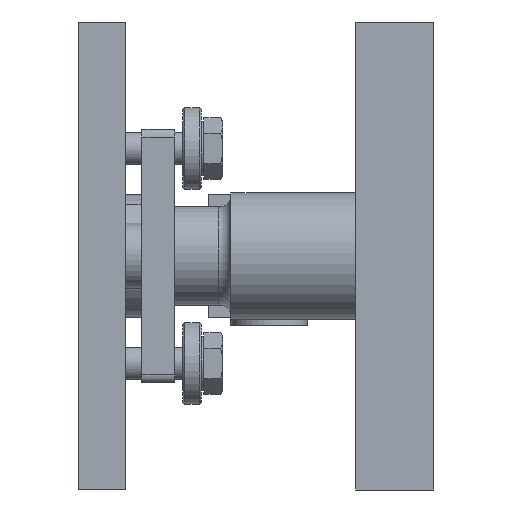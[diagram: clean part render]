
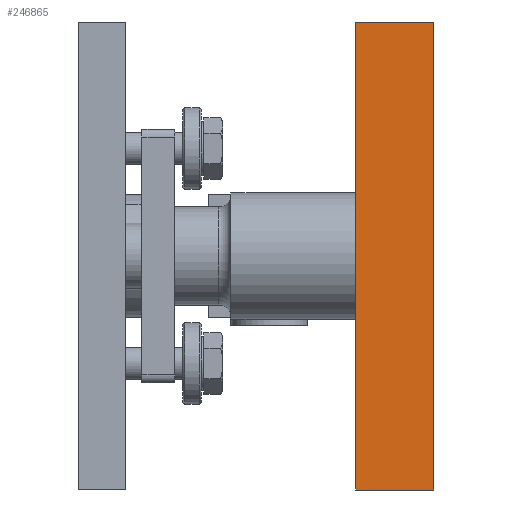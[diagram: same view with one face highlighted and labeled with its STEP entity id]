
A CAD part, left-side view. The second image highlights one B-rep face of the part: STEP entity #246865.
In plain terms, the highlighted planar face has unit normal (-1, 0, 0).
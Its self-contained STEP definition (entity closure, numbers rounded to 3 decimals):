
#14054 = CARTESIAN_POINT ( 'NONE',  ( -100., 0., -57.15 ) ) ;
#30852 = LINE ( 'NONE', #263910, #288001 ) ;
#34261 = CARTESIAN_POINT ( 'NONE',  ( -100., 0., -57.15 ) ) ;
#38756 = FACE_OUTER_BOUND ( 'NONE', #264236, .T. ) ;
#44741 = PLANE ( 'NONE',  #265133 ) ;
#51104 = CARTESIAN_POINT ( 'NONE',  ( -100., 19.05, 57.15 ) ) ;
#52907 = EDGE_CURVE ( 'NONE', #274651, #200084, #246543, .T. ) ;
#61244 = EDGE_CURVE ( 'NONE', #200084, #165385, #30852, .T. ) ;
#69628 = DIRECTION ( 'NONE',  ( 0., 0., 1. ) ) ;
#73703 = DIRECTION ( 'NONE',  ( 0., 0., -1. ) ) ;
#76756 = VECTOR ( 'NONE', #69628, 1000. ) ;
#77903 = EDGE_CURVE ( 'NONE', #274651, #236643, #175525, .T. ) ;
#102247 = VECTOR ( 'NONE', #124189, 1000. ) ;
#124189 = DIRECTION ( 'NONE',  ( 0., 0., 1. ) ) ;
#153483 = LINE ( 'NONE', #34261, #76756 ) ;
#158756 = CARTESIAN_POINT ( 'NONE',  ( -100., 19.05, -57.15 ) ) ;
#165385 = VERTEX_POINT ( 'NONE', #311432 ) ;
#175525 = LINE ( 'NONE', #158756, #328789 ) ;
#182937 = CARTESIAN_POINT ( 'NONE',  ( -100., 19.05, -57.15 ) ) ;
#200084 = VERTEX_POINT ( 'NONE', #51104 ) ;
#201065 = DIRECTION ( 'NONE',  ( 0., -1., 0. ) ) ;
#236643 = VERTEX_POINT ( 'NONE', #14054 ) ;
#238028 = ORIENTED_EDGE ( 'NONE', *, *, #61244, .F. ) ;
#246384 = DIRECTION ( 'NONE',  ( 1., 0., 0. ) ) ;
#246543 = LINE ( 'NONE', #325738, #102247 ) ;
#246865 = ADVANCED_FACE ( 'NONE', ( #38756 ), #44741, .F. ) ;
#251592 = ORIENTED_EDGE ( 'NONE', *, *, #257010, .T. ) ;
#257010 = EDGE_CURVE ( 'NONE', #236643, #165385, #153483, .T. ) ;
#263910 = CARTESIAN_POINT ( 'NONE',  ( -100., 19.05, 57.15 ) ) ;
#264236 = EDGE_LOOP ( 'NONE', ( #251592, #238028, #338822, #275495 ) ) ;
#265133 = AXIS2_PLACEMENT_3D ( 'NONE', #303092, #246384, #73703 ) ;
#274651 = VERTEX_POINT ( 'NONE', #182937 ) ;
#275495 = ORIENTED_EDGE ( 'NONE', *, *, #77903, .T. ) ;
#288001 = VECTOR ( 'NONE', #201065, 1000. ) ;
#301214 = DIRECTION ( 'NONE',  ( 0., -1., 0. ) ) ;
#303092 = CARTESIAN_POINT ( 'NONE',  ( -100., 19.05, -57.15 ) ) ;
#311432 = CARTESIAN_POINT ( 'NONE',  ( -100., 0., 57.15 ) ) ;
#325738 = CARTESIAN_POINT ( 'NONE',  ( -100., 19.05, -57.15 ) ) ;
#328789 = VECTOR ( 'NONE', #301214, 1000. ) ;
#338822 = ORIENTED_EDGE ( 'NONE', *, *, #52907, .F. ) ;
